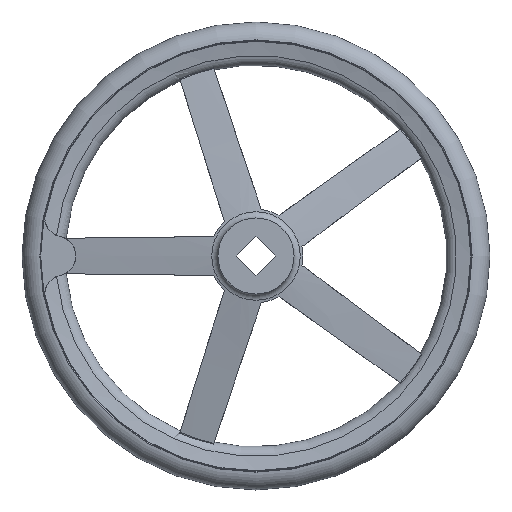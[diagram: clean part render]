
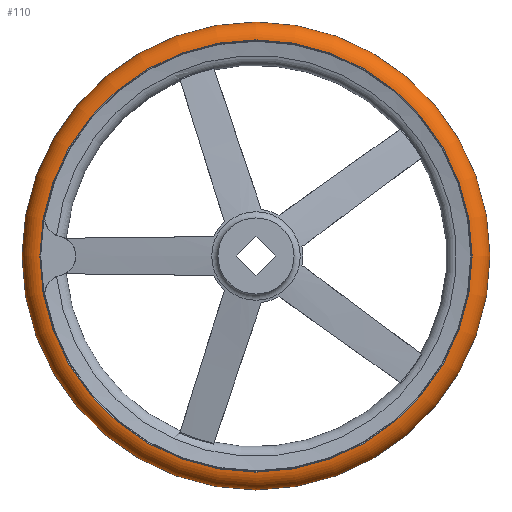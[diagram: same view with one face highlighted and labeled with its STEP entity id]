
A CAD part, left-side view. The second image highlights one B-rep face of the part: STEP entity #110.
In plain terms, the highlighted toroidal (fillet/blend) face has major radius 183.986 mm and minor radius 16.015 mm.
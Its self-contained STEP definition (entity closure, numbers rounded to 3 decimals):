
#110 = ADVANCED_FACE( '', ( #227, #228, #229 ), #230, .T. );
#227 = FACE_BOUND( '', #410, .T. );
#228 = FACE_OUTER_BOUND( '', #411, .T. );
#229 = FACE_OUTER_BOUND( '', #412, .T. );
#230 = TOROIDAL_SURFACE( '', #413, 183.986, 16.014 );
#410 = VERTEX_LOOP( '', #762 );
#411 = EDGE_LOOP( '', ( #763 ) );
#412 = EDGE_LOOP( '', ( #764 ) );
#413 = AXIS2_PLACEMENT_3D( '', #765, #766, #767 );
#762 = VERTEX_POINT( '', #1087 );
#763 = ORIENTED_EDGE( '', *, *, #1086, .T. );
#764 = ORIENTED_EDGE( '', *, *, #1062, .F. );
#765 = CARTESIAN_POINT( '', ( 47., 0., 0. ) );
#766 = DIRECTION( '', ( 1., 0., 0. ) );
#767 = DIRECTION( '', ( 0., 1., 0. ) );
#1062 = EDGE_CURVE( '', #1302, #1302, #1303, .T. );
#1086 = EDGE_CURVE( '', #1339, #1339, #1340, .T. );
#1087 = CARTESIAN_POINT( '', ( 47., 200., 0. ) );
#1302 = VERTEX_POINT( '', #2077 );
#1303 = CIRCLE( '', #2078, 184.667 );
#1339 = VERTEX_POINT( '', #2196 );
#1340 = CIRCLE( '', #2197, 184.667 );
#2077 = CARTESIAN_POINT( '', ( 63., 184.667, 0. ) );
#2078 = AXIS2_PLACEMENT_3D( '', #2453, #2454, #2455 );
#2196 = CARTESIAN_POINT( '', ( 31., 184.667, 0. ) );
#2197 = AXIS2_PLACEMENT_3D( '', #2497, #2498, #2499 );
#2453 = CARTESIAN_POINT( '', ( 63., 0., 0. ) );
#2454 = DIRECTION( '', ( 1., 0., 0. ) );
#2455 = DIRECTION( '', ( 0., 1., 0. ) );
#2497 = CARTESIAN_POINT( '', ( 31., 0., 0. ) );
#2498 = DIRECTION( '', ( 1., 0., 0. ) );
#2499 = DIRECTION( '', ( 0., 1., 0. ) );
